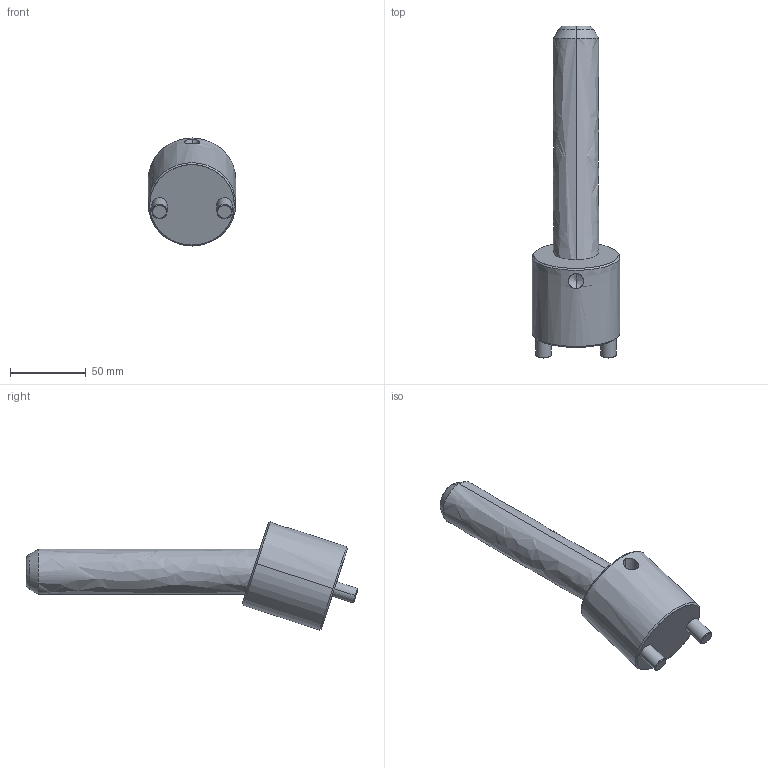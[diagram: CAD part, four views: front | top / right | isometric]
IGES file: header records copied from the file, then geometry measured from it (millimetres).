
Start section: START RECORD GO HERE.
Global section: file name: CI1830150.igs; native system: DASSAULT SYSTEMES CATIA V5 R20 - www.3ds.com; preprocessor: CATIA Version 5 Release 20 ; author: r.borello; organization: CFTORINO; date: 20190624.094721; units: millimetre
Bounding box: 58 x 219.82 x 71.54 mm (x, y, z)
Surface area: 40187.6 mm2 (no closed solid volume)
Topology: 0 solids, 0 shells, 39 faces, 162 edges, 160 vertices
Faces by surface type: revolution 32, plane 7
